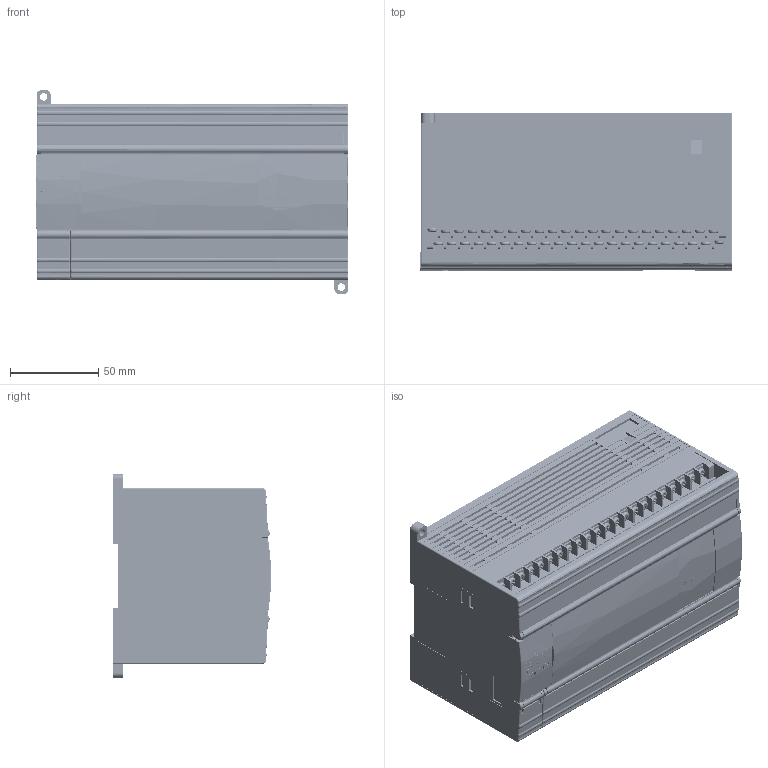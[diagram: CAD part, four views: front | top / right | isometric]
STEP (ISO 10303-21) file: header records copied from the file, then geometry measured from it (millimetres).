
FILE_DESCRIPTION(('STEP AP242'), '1');
FILE_NAME('XSDH-60PA32-E', '', ('UNSPECIFIED'), ('UNSPECIFIED'), 'C3D Converter', 'C3D Toolkit', '');
FILE_SCHEMA(('AP242_MANAGED_MODEL_BASED_3D_ENGINEERING_MIM_LF { 1 0 10303 442 1 1 4 }'));
Length unit declared in the file: millimetre
Products named in the file (1): PMP30-60A32-E PROMPOWER
Bounding box: 177.63 x 90.1 x 116 mm (x, y, z)
Surface area: 213226.4 mm2
Topology: 28 solids, 173 shells, 8083 faces, 23534 edges, 15962 vertices
Faces by surface type: plane 6380, cylinder 800, bspline 643, extrusion 260
Full cylindrical faces by diameter (mm): 1 x1, 1.8 x3, 2 x1, 2.2 x3, 2.6 x83, 3 x82, 3.5 x4, 3.65 x4, 4.3 x2, 5.4 x82
Entity records: 433265 total; most frequent: CARTESIAN_POINT 163034, ORIENTED_EDGE 44412, DIRECTION 36365, EDGE_CURVE 22840, VECTOR 18049, LINE 17789, VERTEX_POINT 15761, EDGE_LOOP 9285
